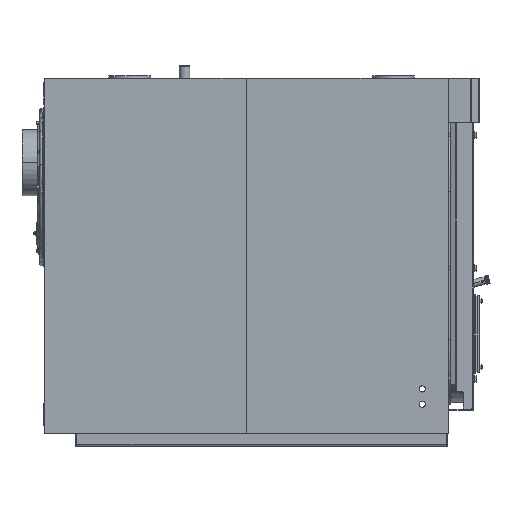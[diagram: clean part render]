
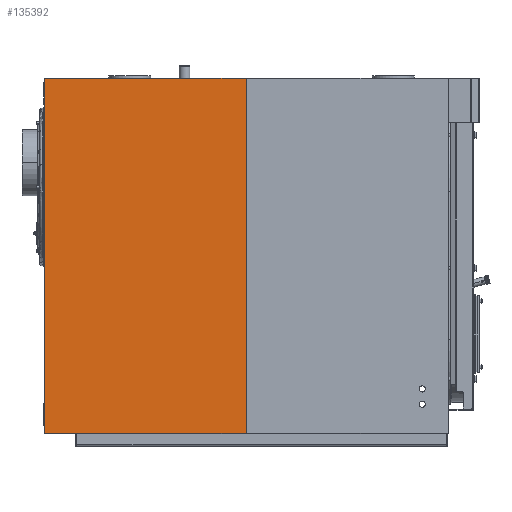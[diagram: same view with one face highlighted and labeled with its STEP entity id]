
A CAD part, front view. The second image highlights one B-rep face of the part: STEP entity #135392.
In plain terms, the highlighted planar face has unit normal (0, -1, 0).
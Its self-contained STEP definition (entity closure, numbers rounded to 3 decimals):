
#135340=CARTESIAN_POINT('Vertex',(459.2,-43.,18.2)) ;
#135343=CARTESIAN_POINT('Line Origine',(459.2,-43.,-790.)) ;
#135347=CARTESIAN_POINT('Vertex',(459.2,-43.,-1598.2)) ;
#135362=CARTESIAN_POINT('Axis2P3D Location',(0.,-43.,18.2)) ;
#135367=CARTESIAN_POINT('Line Origine',(0.,-43.,-1598.2)) ;
#135371=CARTESIAN_POINT('Vertex',(-459.2,-43.,-1598.2)) ;
#135374=CARTESIAN_POINT('Line Origine',(0.,-43.,18.2)) ;
#135378=CARTESIAN_POINT('Vertex',(-459.2,-43.,18.2)) ;
#135381=CARTESIAN_POINT('Line Origine',(-459.2,-43.,-790.)) ;
#135344=DIRECTION('Vector Direction',(0.,0.,1.)) ;
#135363=DIRECTION('Axis2P3D Direction',(0.,1.,0.)) ;
#135364=DIRECTION('Axis2P3D XDirection',(0.,0.,-1.)) ;
#135368=DIRECTION('Vector Direction',(-1.,0.,0.)) ;
#135375=DIRECTION('Vector Direction',(-1.,0.,0.)) ;
#135382=DIRECTION('Vector Direction',(0.,0.,-1.)) ;
#135365=AXIS2_PLACEMENT_3D('Plane Axis2P3D',#135362,#135363,#135364) ;
#135387=ORIENTED_EDGE('',*,*,#135373,.F.) ;
#135388=ORIENTED_EDGE('',*,*,#135349,.T.) ;
#135389=ORIENTED_EDGE('',*,*,#135380,.T.) ;
#135390=ORIENTED_EDGE('',*,*,#135385,.F.) ;
#135345=VECTOR('Line Direction',#135344,1.) ;
#135369=VECTOR('Line Direction',#135368,1.) ;
#135376=VECTOR('Line Direction',#135375,1.) ;
#135383=VECTOR('Line Direction',#135382,1.) ;
#135392=ADVANCED_FACE('PartBody',(#135391),#135366,.F.) ;
#135349=EDGE_CURVE('',#135348,#135341,#135346,.T.) ;
#135373=EDGE_CURVE('',#135348,#135372,#135370,.T.) ;
#135380=EDGE_CURVE('',#135341,#135379,#135377,.T.) ;
#135385=EDGE_CURVE('',#135372,#135379,#135384,.F.) ;
#135386=EDGE_LOOP('',(#135387,#135388,#135389,#135390)) ;
#135391=FACE_OUTER_BOUND('',#135386,.T.) ;
#135346=LINE('Line',#135343,#135345) ;
#135370=LINE('Line',#135367,#135369) ;
#135377=LINE('Line',#135374,#135376) ;
#135384=LINE('Line',#135381,#135383) ;
#135366=PLANE('',#135365) ;
#135341=VERTEX_POINT('',#135340) ;
#135348=VERTEX_POINT('',#135347) ;
#135372=VERTEX_POINT('',#135371) ;
#135379=VERTEX_POINT('',#135378) ;
